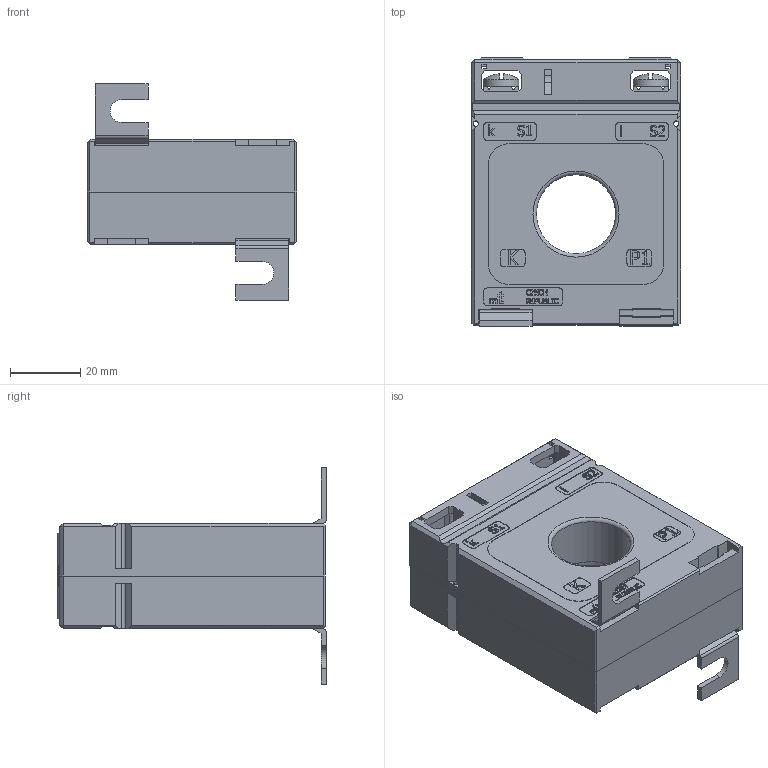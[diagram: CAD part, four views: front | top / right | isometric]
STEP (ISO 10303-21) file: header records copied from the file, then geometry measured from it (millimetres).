
FILE_DESCRIPTION(/* description */ (''),/* implementation_level */ '2;1');
FILE_NAME(/* name */ 'CLB 22R.63.step',/* time_stamp */ '2024-10-09T20:34:50+02:00',/* author */ ('peter'),/* organization */ (''),/* preprocessor_version */ 'ST-DEVELOPER v20',/* originating_system */ 'Autodesk Inventor 2025',/* authorisation */ '');
FILE_SCHEMA (('AUTOMOTIVE_DESIGN { 1 0 10303 214 3 1 1 }'));
Length unit declared in the file: millimetre
Products named in the file (8): Current transformer CLB 22R.63; Front plastic case CLB 22R.63; Back plastic case CLB 22R.63; Tape label CLB 22R.63; Secondary terminal 20 CLB; Secondary terminal cover 27 CLB; Metal mounting foot CLB; Screw M5x8
Assembly tree (13 placements, depth 2):
  Current transformer CLB 22R.63
    Front plastic case CLB 22R.63
    Back plastic case CLB 22R.63
    Tape label CLB 22R.63
    Secondary terminal 20 CLB  x2
    Secondary terminal cover 27 CLB  x2
    Metal mounting foot CLB  x2
    Screw M5x8  x4
Bounding box: 59.5 x 76.4 x 61.5 mm (x, y, z)
Volume: 114867.7 mm3; surface area: 37948.8 mm2
Topology: 13 solids, 13 shells, 1579 faces, 4376 edges, 2896 vertices
Faces by surface type: plane 1010, bspline 413, cylinder 132, cone 14, sphere 8, torus 2
Full cylindrical faces by diameter (mm): 1.5 x4, 2.95 x2, 3 x4, 3.5 x2, 4.134 x4, 5 x4, 10 x4, 22.5 x2
Entity records: 47740 total; most frequent: CARTESIAN_POINT 13421, ORIENTED_EDGE 7890, DIRECTION 5381, EDGE_CURVE 3945, LINE 2879, VECTOR 2879, VERTEX_POINT 2617, EDGE_LOOP 1532
